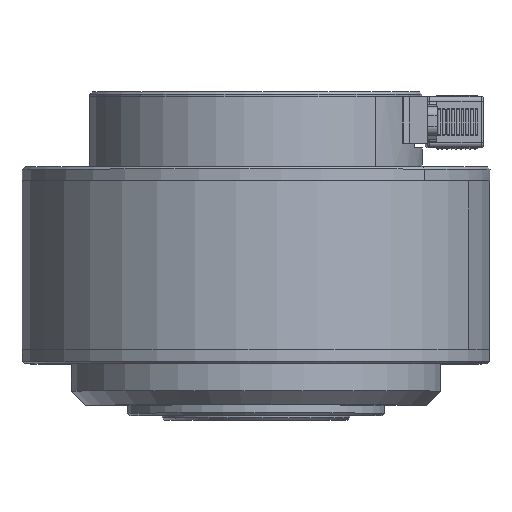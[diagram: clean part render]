
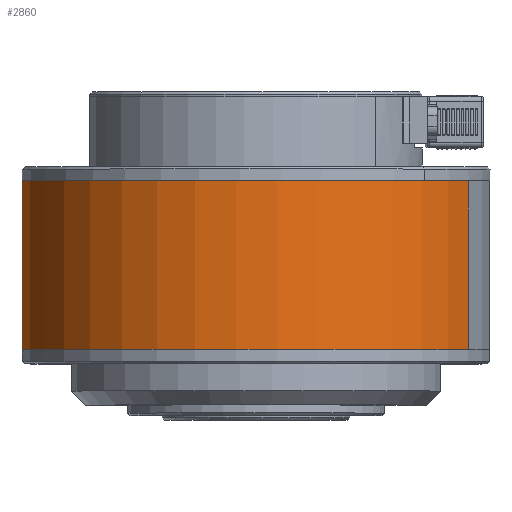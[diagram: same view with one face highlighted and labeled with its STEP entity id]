
A CAD part, top view. The second image highlights one B-rep face of the part: STEP entity #2860.
In plain terms, the highlighted cylindrical face has radius 50 mm (diameter 100 mm), a partial arc.
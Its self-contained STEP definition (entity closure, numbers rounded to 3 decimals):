
#10 = VERTEX_POINT ( 'NONE', #35275 ) ;
#121 = EDGE_LOOP ( 'NONE', ( #28820, #5306, #48660, #10697 ) ) ;
#888 = DIRECTION ( 'NONE',  ( 0., 0., 1. ) ) ;
#2860 = ADVANCED_FACE ( 'NONE', ( #48778 ), #19627, .T. ) ;
#3230 = EDGE_CURVE ( 'NONE', #10, #50294, #27954, .T. ) ;
#3791 = CARTESIAN_POINT ( 'NONE',  ( 0., 3., 50. ) ) ;
#5306 = ORIENTED_EDGE ( 'NONE', *, *, #13023, .F. ) ;
#6174 = EDGE_CURVE ( 'NONE', #41408, #18457, #12862, .T. ) ;
#7992 = DIRECTION ( 'NONE',  ( 0., -1., 0. ) ) ;
#8362 = CARTESIAN_POINT ( 'NONE',  ( 0., -5., -50. ) ) ;
#10697 = ORIENTED_EDGE ( 'NONE', *, *, #20291, .F. ) ;
#12348 = DIRECTION ( 'NONE',  ( 0., -1., 0. ) ) ;
#12601 = CARTESIAN_POINT ( 'NONE',  ( 0., 3., -50. ) ) ;
#12786 = DIRECTION ( 'NONE',  ( 0., -1., 0. ) ) ;
#12862 = LINE ( 'NONE', #12601, #34868 ) ;
#13023 = EDGE_CURVE ( 'NONE', #41408, #10, #18259, .T. ) ;
#13843 = DIRECTION ( 'NONE',  ( 0., 0., -1. ) ) ;
#18259 = CIRCLE ( 'NONE', #31697, 50. ) ;
#18457 = VERTEX_POINT ( 'NONE', #8362 ) ;
#18811 = CARTESIAN_POINT ( 'NONE',  ( 0., -5., 50. ) ) ;
#19627 = CYLINDRICAL_SURFACE ( 'NONE', #49605, 50. ) ;
#19920 = CARTESIAN_POINT ( 'NONE',  ( 0., -5., 0. ) ) ;
#20291 = EDGE_CURVE ( 'NONE', #50294, #18457, #31635, .T. ) ;
#27954 = LINE ( 'NONE', #3791, #47939 ) ;
#28488 = DIRECTION ( 'NONE',  ( 0., 1., 0. ) ) ;
#28820 = ORIENTED_EDGE ( 'NONE', *, *, #3230, .F. ) ;
#31635 = CIRCLE ( 'NONE', #43329, 50. ) ;
#31697 = AXIS2_PLACEMENT_3D ( 'NONE', #48491, #28488, #888 ) ;
#34868 = VECTOR ( 'NONE', #12348, 1000. ) ;
#35275 = CARTESIAN_POINT ( 'NONE',  ( 0., 31., 50. ) ) ;
#35928 = DIRECTION ( 'NONE',  ( 0., -1., 0. ) ) ;
#41408 = VERTEX_POINT ( 'NONE', #51232 ) ;
#43329 = AXIS2_PLACEMENT_3D ( 'NONE', #19920, #35928, #51968 ) ;
#43771 = CARTESIAN_POINT ( 'NONE',  ( 0., 3., 0. ) ) ;
#47939 = VECTOR ( 'NONE', #7992, 1000. ) ;
#48491 = CARTESIAN_POINT ( 'NONE',  ( 0., 31., 0. ) ) ;
#48660 = ORIENTED_EDGE ( 'NONE', *, *, #6174, .T. ) ;
#48778 = FACE_OUTER_BOUND ( 'NONE', #121, .T. ) ;
#49605 = AXIS2_PLACEMENT_3D ( 'NONE', #43771, #12786, #13843 ) ;
#50294 = VERTEX_POINT ( 'NONE', #18811 ) ;
#51232 = CARTESIAN_POINT ( 'NONE',  ( 0., 31., -50. ) ) ;
#51968 = DIRECTION ( 'NONE',  ( 0., 0., -1. ) ) ;
